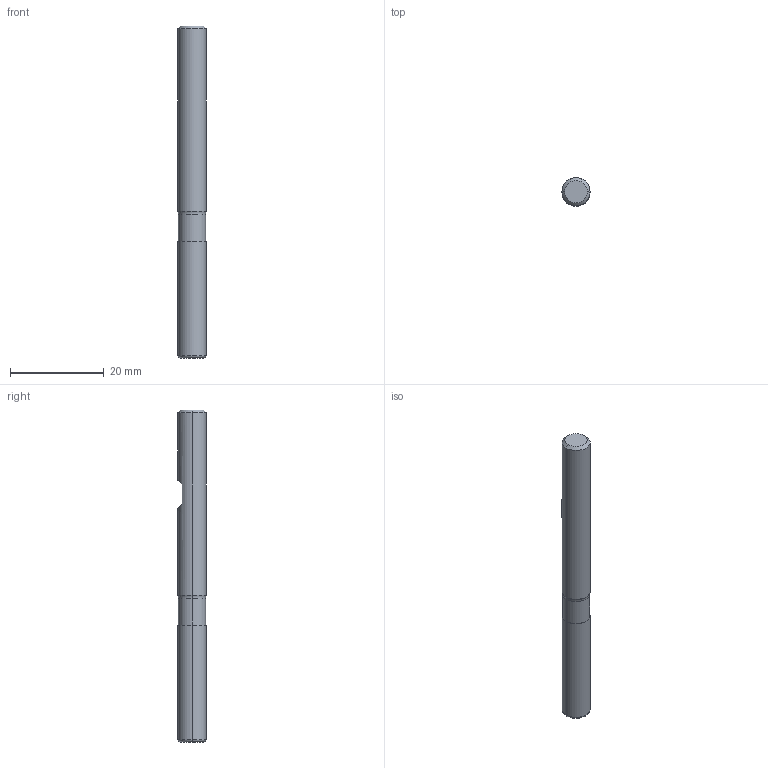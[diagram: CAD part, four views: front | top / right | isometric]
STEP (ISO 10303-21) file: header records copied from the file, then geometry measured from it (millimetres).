
FILE_DESCRIPTION (( 'STEP AP214' ), '1' );
FILE_NAME ('2.410.060.10_3D-model.step', '2022-02-15T19:58:57', ( '' ), ( '' ), 'SwSTEP 2.0', 'SolidWorks 2020', '' );
FILE_SCHEMA (( 'AUTOMOTIVE_DESIGN' ));
Length unit declared in the file: millimetre
Products named in the file (3): CUT-3D^Baugr24; NOCUT-3D^Baugr24; 2.410.060.10_3D-model
Assembly tree (2 placements, depth 2):
  2.410.060.10_3D-model
    CUT-3D^Baugr24
    NOCUT-3D^Baugr24
Bounding box: 6 x 6 x 71 mm (x, y, z)
Volume: 1978.8 mm3; surface area: 1434.4 mm2
Topology: 2 solids, 2 shells, 21 faces, 38 edges, 22 vertices
Faces by surface type: plane 7, cylinder 6, torus 4, cone 4
Entity records: 636 total; most frequent: DIRECTION 116, CARTESIAN_POINT 95, ORIENTED_EDGE 76, AXIS2_PLACEMENT_3D 51, EDGE_CURVE 38, EDGE_LOOP 22, VERTEX_POINT 22, CIRCLE 22
